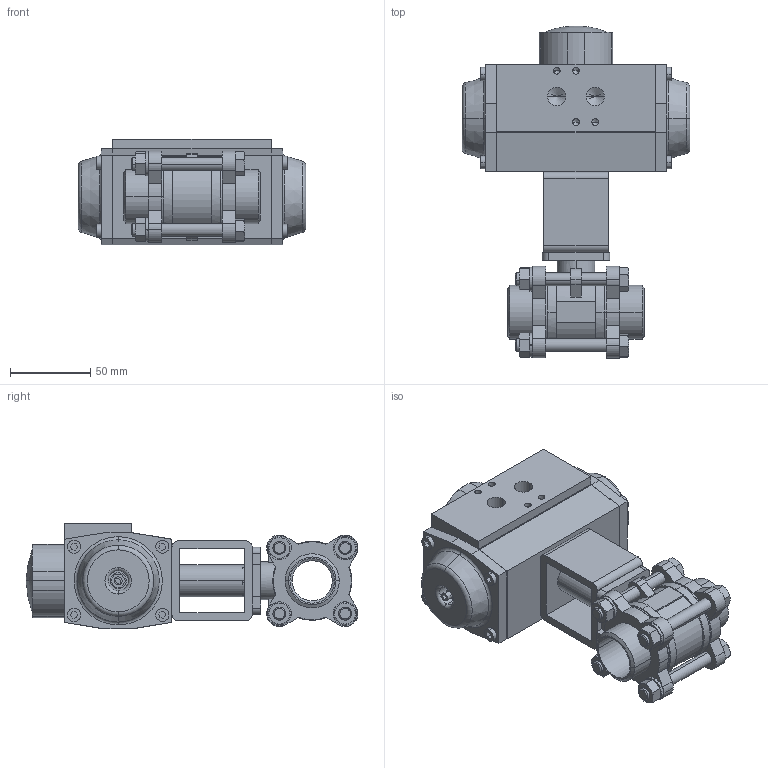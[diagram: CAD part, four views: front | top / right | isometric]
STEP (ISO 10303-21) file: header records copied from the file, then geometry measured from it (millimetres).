
FILE_DESCRIPTION (( 'STEP AP214' ), '1' );
FILE_NAME ('A13 DN25-1 BW + AP1D.STEP', '2012-04-23T09:22:35', ( '' ), ( '' ), 'SwSTEP 2.0', 'SolidWorks 2011', '' );
FILE_SCHEMA (( 'AUTOMOTIVE_DESIGN' ));
Length unit declared in the file: millimetre
Products named in the file (9): AP1_Default<As Machined>; Brugstuk simplified_YB5050F3F4-3; A13 DN25 Buttweld; ISO 4016 - M8 x 65 x 22-NN_ISO 4016 - M8 x 65 x 22-NN; Hexagon Nut ISO 4032 - M8 - D - N_Hexagon Nut ISO 4032 - M8 - D - N; Spring washer DIN 128 - A8_Spring washer DIN 128 - A8; A13 Flens Buttweld DN25; A13 KK DN25 PN63; A13 DN25-1 BW + AP1D
Assembly tree (18 placements, depth 3):
  A13 DN25-1 BW + AP1D
    A13 DN25 Buttweld
      Spring washer DIN 128 - A8_Spring washer DIN 128 - A8  x4
      A13 Flens Buttweld DN25  x2
      ISO 4016 - M8 x 65 x 22-NN_ISO 4016 - M8 x 65 x 22-NN  x4
      Hexagon Nut ISO 4032 - M8 - D - N_Hexagon Nut ISO 4032 - M8 - D - N  x4
      A13 KK DN25 PN63
    Brugstuk simplified_YB5050F3F4-3
    AP1_Default<As Machined>
Bounding box: 142 x 207 x 66 mm (x, y, z)
Volume: 742179.9 mm3; surface area: 131100.8 mm2
Topology: 27 solids, 27 shells, 725 faces, 1707 edges, 1063 vertices
Faces by surface type: plane 347, cylinder 204, cone 152, torus 20, sphere 2
Entity records: 16641 total; most frequent: CARTESIAN_POINT 2844, DIRECTION 2624, ORIENTED_EDGE 2412, EDGE_CURVE 1206, AXIS2_PLACEMENT_3D 921, LINE 782, VECTOR 782, VERTEX_POINT 781
